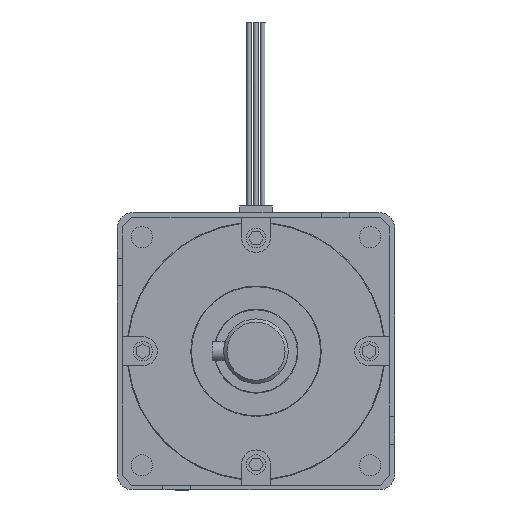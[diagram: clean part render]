
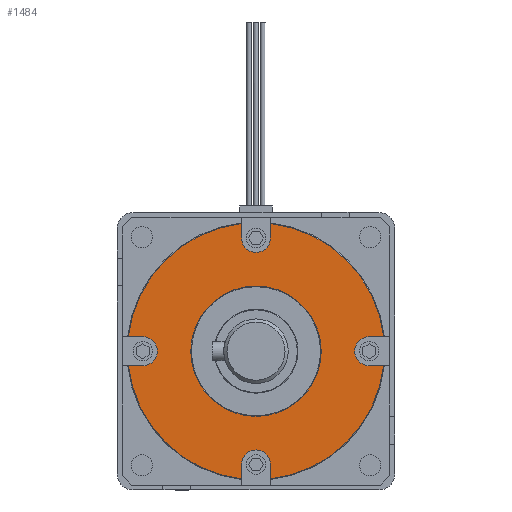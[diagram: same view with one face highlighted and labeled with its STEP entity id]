
A CAD part, front view. The second image highlights one B-rep face of the part: STEP entity #1484.
In plain terms, the highlighted planar face has unit normal (0, -1, 0) as drawn and (0, 0, 1) by its records, which use the part's own axes.
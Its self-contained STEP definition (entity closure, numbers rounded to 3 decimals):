
#905=FACE_BOUND('',#2239,.T.);
#906=FACE_BOUND('',#2240,.T.);
#1255=CIRCLE('',#6358,20.2);
#1256=CIRCLE('',#6359,39.8);
#1257=CIRCLE('',#6360,4.5);
#1258=CIRCLE('',#6361,39.8);
#1259=CIRCLE('',#6362,4.5);
#1260=CIRCLE('',#6363,39.8);
#1261=CIRCLE('',#6364,4.5);
#1262=CIRCLE('',#6365,39.8);
#1263=CIRCLE('',#6366,4.5);
#1484=ADVANCED_FACE('',(#905,#906),#1694,.T.);
#1694=PLANE('',#6367);
#2239=EDGE_LOOP('',(#3439));
#2240=EDGE_LOOP('',(#3440,#3441,#3442,#3443,#3444,#3445,#3446,#3447,#3448,
#3449,#3450,#3451,#3452,#3453,#3454,#3455));
#3439=ORIENTED_EDGE('',*,*,#4883,.T.);
#3440=ORIENTED_EDGE('',*,*,#4884,.F.);
#3441=ORIENTED_EDGE('',*,*,#4885,.T.);
#3442=ORIENTED_EDGE('',*,*,#4886,.F.);
#3443=ORIENTED_EDGE('',*,*,#4887,.F.);
#3444=ORIENTED_EDGE('',*,*,#4888,.F.);
#3445=ORIENTED_EDGE('',*,*,#4889,.T.);
#3446=ORIENTED_EDGE('',*,*,#4890,.F.);
#3447=ORIENTED_EDGE('',*,*,#4891,.F.);
#3448=ORIENTED_EDGE('',*,*,#4892,.F.);
#3449=ORIENTED_EDGE('',*,*,#4893,.T.);
#3450=ORIENTED_EDGE('',*,*,#4894,.F.);
#3451=ORIENTED_EDGE('',*,*,#4895,.F.);
#3452=ORIENTED_EDGE('',*,*,#4896,.F.);
#3453=ORIENTED_EDGE('',*,*,#4897,.T.);
#3454=ORIENTED_EDGE('',*,*,#4898,.F.);
#3455=ORIENTED_EDGE('',*,*,#4899,.F.);
#4206=VERTEX_POINT('',#9566);
#4207=VERTEX_POINT('',#9568);
#4208=VERTEX_POINT('',#9569);
#4209=VERTEX_POINT('',#9571);
#4210=VERTEX_POINT('',#9573);
#4211=VERTEX_POINT('',#9575);
#4212=VERTEX_POINT('',#9577);
#4213=VERTEX_POINT('',#9579);
#4214=VERTEX_POINT('',#9581);
#4215=VERTEX_POINT('',#9583);
#4216=VERTEX_POINT('',#9585);
#4217=VERTEX_POINT('',#9587);
#4218=VERTEX_POINT('',#9589);
#4219=VERTEX_POINT('',#9591);
#4220=VERTEX_POINT('',#9593);
#4221=VERTEX_POINT('',#9595);
#4222=VERTEX_POINT('',#9597);
#4883=EDGE_CURVE('',#4206,#4206,#1255,.T.);
#4884=EDGE_CURVE('',#4207,#4208,#5394,.T.);
#4885=EDGE_CURVE('',#4207,#4209,#1256,.T.);
#4886=EDGE_CURVE('',#4210,#4209,#5395,.T.);
#4887=EDGE_CURVE('',#4211,#4210,#1257,.T.);
#4888=EDGE_CURVE('',#4212,#4211,#5396,.T.);
#4889=EDGE_CURVE('',#4212,#4213,#1258,.T.);
#4890=EDGE_CURVE('',#4214,#4213,#5397,.T.);
#4891=EDGE_CURVE('',#4215,#4214,#1259,.T.);
#4892=EDGE_CURVE('',#4216,#4215,#5398,.T.);
#4893=EDGE_CURVE('',#4216,#4217,#1260,.T.);
#4894=EDGE_CURVE('',#4218,#4217,#5399,.T.);
#4895=EDGE_CURVE('',#4219,#4218,#1261,.T.);
#4896=EDGE_CURVE('',#4220,#4219,#5400,.T.);
#4897=EDGE_CURVE('',#4220,#4221,#1262,.T.);
#4898=EDGE_CURVE('',#4222,#4221,#5401,.T.);
#4899=EDGE_CURVE('',#4208,#4222,#1263,.T.);
#5394=LINE('',#9567,#5871);
#5395=LINE('',#9572,#5872);
#5396=LINE('',#9576,#5873);
#5397=LINE('',#9580,#5874);
#5398=LINE('',#9584,#5875);
#5399=LINE('',#9588,#5876);
#5400=LINE('',#9592,#5877);
#5401=LINE('',#9596,#5878);
#5871=VECTOR('',#7649,1.);
#5872=VECTOR('',#7652,1.);
#5873=VECTOR('',#7655,1.);
#5874=VECTOR('',#7658,1.);
#5875=VECTOR('',#7661,1.);
#5876=VECTOR('',#7664,1.);
#5877=VECTOR('',#7667,1.);
#5878=VECTOR('',#7670,1.);
#6358=AXIS2_PLACEMENT_3D('',#9565,#7647,#7648);
#6359=AXIS2_PLACEMENT_3D('',#9570,#7650,#7651);
#6360=AXIS2_PLACEMENT_3D('',#9574,#7653,#7654);
#6361=AXIS2_PLACEMENT_3D('',#9578,#7656,#7657);
#6362=AXIS2_PLACEMENT_3D('',#9582,#7659,#7660);
#6363=AXIS2_PLACEMENT_3D('',#9586,#7662,#7663);
#6364=AXIS2_PLACEMENT_3D('',#9590,#7665,#7666);
#6365=AXIS2_PLACEMENT_3D('',#9594,#7668,#7669);
#6366=AXIS2_PLACEMENT_3D('',#9598,#7671,#7672);
#6367=AXIS2_PLACEMENT_3D('',#9599,#7673,#7674);
#7647=DIRECTION('',(0.,0.,-1.));
#7648=DIRECTION('',(1.,0.,0.));
#7649=DIRECTION('',(-1.,0.,0.));
#7650=DIRECTION('',(0.,0.,1.));
#7651=DIRECTION('',(1.,0.,0.));
#7652=DIRECTION('',(0.,1.,0.));
#7653=DIRECTION('',(0.,0.,1.));
#7654=DIRECTION('',(1.,0.,0.));
#7655=DIRECTION('',(0.,-1.,0.));
#7656=DIRECTION('',(0.,0.,1.));
#7657=DIRECTION('',(1.,0.,0.));
#7658=DIRECTION('',(-1.,0.,0.));
#7659=DIRECTION('',(0.,0.,1.));
#7660=DIRECTION('',(0.,1.,0.));
#7661=DIRECTION('',(1.,0.,0.));
#7662=DIRECTION('',(0.,0.,1.));
#7663=DIRECTION('',(1.,0.,0.));
#7664=DIRECTION('',(0.,-1.,0.));
#7665=DIRECTION('',(0.,0.,1.));
#7666=DIRECTION('',(-1.,0.,0.));
#7667=DIRECTION('',(0.,1.,0.));
#7668=DIRECTION('',(0.,0.,1.));
#7669=DIRECTION('',(1.,0.,0.));
#7670=DIRECTION('',(1.,0.,0.));
#7671=DIRECTION('',(0.,0.,1.));
#7672=DIRECTION('',(0.,-1.,0.));
#7673=DIRECTION('',(0.,0.,1.));
#7674=DIRECTION('',(1.,0.,0.));
#9565=CARTESIAN_POINT('',(0.,0.,104.5));
#9566=CARTESIAN_POINT('',(20.2,0.,104.5));
#9567=CARTESIAN_POINT('',(43.738,4.5,104.5));
#9568=CARTESIAN_POINT('',(39.545,4.5,104.5));
#9569=CARTESIAN_POINT('',(35.1,4.5,104.5));
#9570=CARTESIAN_POINT('',(0.,0.,104.5));
#9571=CARTESIAN_POINT('',(4.5,39.545,104.5));
#9572=CARTESIAN_POINT('',(4.5,35.1,104.5));
#9573=CARTESIAN_POINT('',(4.5,35.1,104.5));
#9574=CARTESIAN_POINT('',(0.,35.1,104.5));
#9575=CARTESIAN_POINT('',(-4.5,35.1,104.5));
#9576=CARTESIAN_POINT('',(-4.5,43.738,104.5));
#9577=CARTESIAN_POINT('',(-4.5,39.545,104.5));
#9578=CARTESIAN_POINT('',(0.,0.,104.5));
#9579=CARTESIAN_POINT('',(-39.545,4.5,104.5));
#9580=CARTESIAN_POINT('',(-35.1,4.5,104.5));
#9581=CARTESIAN_POINT('',(-35.1,4.5,104.5));
#9582=CARTESIAN_POINT('',(-35.1,0.,104.5));
#9583=CARTESIAN_POINT('',(-35.1,-4.5,104.5));
#9584=CARTESIAN_POINT('',(-43.738,-4.5,104.5));
#9585=CARTESIAN_POINT('',(-39.545,-4.5,104.5));
#9586=CARTESIAN_POINT('',(0.,0.,104.5));
#9587=CARTESIAN_POINT('',(-4.5,-39.545,104.5));
#9588=CARTESIAN_POINT('',(-4.5,-35.1,104.5));
#9589=CARTESIAN_POINT('',(-4.5,-35.1,104.5));
#9590=CARTESIAN_POINT('',(0.,-35.1,104.5));
#9591=CARTESIAN_POINT('',(4.5,-35.1,104.5));
#9592=CARTESIAN_POINT('',(4.5,-43.738,104.5));
#9593=CARTESIAN_POINT('',(4.5,-39.545,104.5));
#9594=CARTESIAN_POINT('',(0.,0.,104.5));
#9595=CARTESIAN_POINT('',(39.545,-4.5,104.5));
#9596=CARTESIAN_POINT('',(35.1,-4.5,104.5));
#9597=CARTESIAN_POINT('',(35.1,-4.5,104.5));
#9598=CARTESIAN_POINT('',(35.1,0.,104.5));
#9599=CARTESIAN_POINT('',(0.,0.,104.5));
